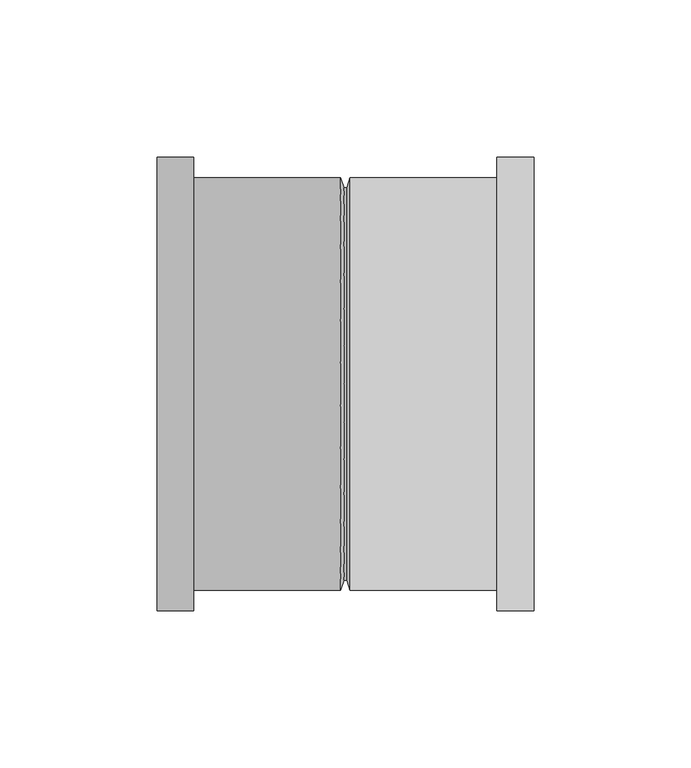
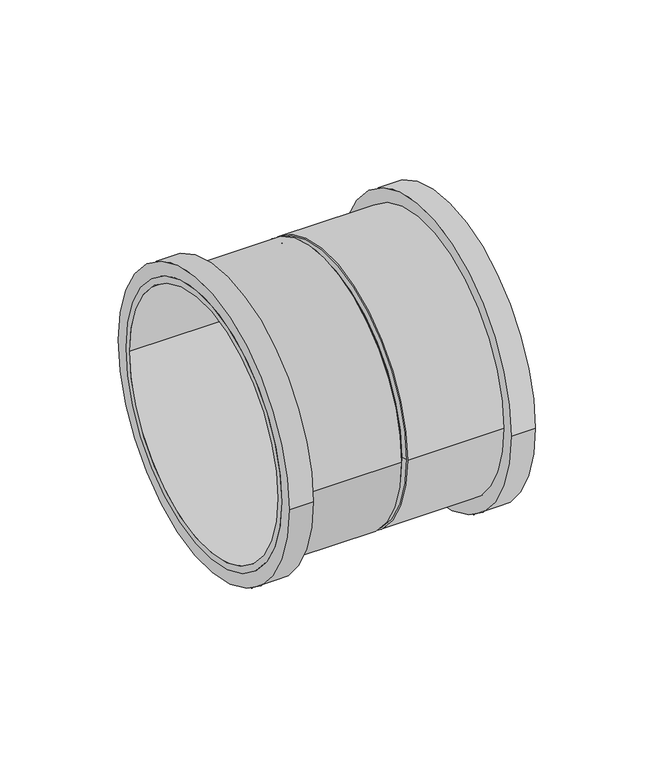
"""IFC4 building model written with IfcOpenShell, lengths in millimetres: pipe fitting geometry, Superdrain HTMM-Double socket : Superdrain HTMM-Double socket."""

import ifcopenshell
import ifcopenshell.guid

model = None  # the IFC model being written
_history = None  # IfcOwnerHistory: only IFC2X3 demands one
_inside = {}  # id of a spatial element -> (the spatial element, [elements in it])
_under = {}  # id of a project, library or spatial element -> (it, [spatial elements below it])
_declared = {}  # id of a project -> (the project, [libraries it declares])
_typed = {}  # id of a type object -> (the type object, [elements of that type])
_made_of = {}  # id of a material, layer set ... -> (it, [elements and type objects made of it])


def new_model(schema):
    """Start an empty IFC model of exactly this schema.

    Asked for "IFC4X3", IfcOpenShell would pick the latest addendum, in which some entities
    have other attributes; the version numbers below select the first issue.
    IFC2X3 requires an IfcOwnerHistory on every rooted entity: one is made here for all.
    """
    global model, _history
    if schema == "IFC4X3":
        model = ifcopenshell.file(schema_version=(4, 3, 0, 0))
    else:
        model = ifcopenshell.file(schema=schema)
    _inside.clear()
    _under.clear()
    _declared.clear()
    _typed.clear()
    _made_of.clear()
    _history = None
    if model.schema == "IFC2X3":
        org = make("IfcOrganization", Name="unknown")
        user = make(
            "IfcPersonAndOrganization",
            ThePerson=make("IfcPerson", FamilyName="unknown"),
            TheOrganization=org,
        )
        app = make(
            "IfcApplication",
            ApplicationDeveloper=org,
            Version="unknown",
            ApplicationFullName="unknown",
            ApplicationIdentifier="unknown",
        )
        _history = make(
            "IfcOwnerHistory",
            OwningUser=user,
            OwningApplication=app,
            ChangeAction="ADDED",
            CreationDate=0,
        )
    return model


def make(cls, **values):
    """One entity of the class cls with the attributes given. An attribute that is None is left unset."""
    return model.create_entity(
        cls, **{name: value for name, value in values.items() if value is not None}
    )


def rooted(cls, **values):
    """An entity with a GlobalId (a new one), such as an element, a storey or a relation."""
    return make(cls, GlobalId=ifcopenshell.guid.new(), OwnerHistory=_history, **values)


def si_unit(unit_type, name, prefix=None):
    """IfcSIUnit, for example si_unit("LENGTHUNIT", "METRE", prefix="MILLI")."""
    return make("IfcSIUnit", UnitType=unit_type, Prefix=prefix, Name=name)


def assignment(units):
    """IfcUnitAssignment: the units of a project."""
    return None if units is None else make("IfcUnitAssignment", Units=units)


def point(xyz):
    """IfcCartesianPoint."""
    return None if xyz is None else make("IfcCartesianPoint", Coordinates=xyz)


def direction(xyz):
    """IfcDirection."""
    return None if xyz is None else make("IfcDirection", DirectionRatios=xyz)


def frame(location, z_axis=None, x_axis=None):
    """IfcAxis2Placement3D, a coordinate frame: its origin and axes. An axis left out is left unset."""
    return make(
        "IfcAxis2Placement3D",
        Location=point(location),
        Axis=direction(z_axis),
        RefDirection=direction(x_axis),
    )


def frame_2d(location, x_axis=None):
    """IfcAxis2Placement2D, a coordinate frame in the plane: its origin and x axis."""
    return make(
        "IfcAxis2Placement2D", Location=point(location), RefDirection=direction(x_axis)
    )


def origin():
    """The frame at (0, 0, 0) with its axes left unset."""
    return frame((0.0, 0.0, 0.0))


def origin_2d():
    """The frame at (0, 0) in the plane with its x axis left unset."""
    return frame_2d((0.0, 0.0))


def place(relative_to, where):
    """IfcLocalPlacement: puts the frame where relative to a parent placement (None: the world)."""
    return make(
        "IfcLocalPlacement", PlacementRelTo=relative_to, RelativePlacement=where
    )


def context(
    kind, dimensions, precision=None, world=None, true_north=None, identifier=None
):
    """IfcGeometricRepresentationContext, for example the 3D "Model" context."""
    return make(
        "IfcGeometricRepresentationContext",
        ContextIdentifier=identifier,
        ContextType=kind,
        CoordinateSpaceDimension=dimensions,
        Precision=precision,
        WorldCoordinateSystem=world,
        TrueNorth=true_north,
    )


def project(units=None, contexts=None):
    """IfcProject with its units and contexts."""
    return rooted(
        "IfcProject",
        Name="project",
        RepresentationContexts=contexts,
        UnitsInContext=assignment(units),
    )


def spatial(cls, under=None, at=None, **own):
    """A site, building, storey or space (cls), placed at a placement, below another one or the project."""
    s = rooted(cls, ObjectPlacement=at, **own)
    if under is not None:
        _under.setdefault(under.id(), (under, []))[1].append(s)
    return s


def polyline(points):
    """IfcPolyline through the points."""
    return make("IfcPolyline", Points=[point(p) for p in points])


def circle_curve(where, radius):
    """IfcCircle in the frame where."""
    return make("IfcCircle", Position=where, Radius=radius)


def trimmed(basis, trim1, trim2, sense, master):
    """IfcTrimmedCurve: the piece of a basis curve between two trims."""
    return make(
        "IfcTrimmedCurve",
        BasisCurve=basis,
        Trim1=trim1,
        Trim2=trim2,
        SenseAgreement=sense,
        MasterRepresentation=master,
    )


def segment(curve, same_sense, transition):
    """IfcCompositeCurveSegment."""
    return make(
        "IfcCompositeCurveSegment",
        Transition=transition,
        SameSense=same_sense,
        ParentCurve=curve,
    )


def composite_curve(segments, self_intersect=None):
    """IfcCompositeCurve: segments joined end to end."""
    return make("IfcCompositeCurve", Segments=segments, SelfIntersect=self_intersect)


def outline(outer, holes=None, kind="AREA"):
    """IfcArbitraryClosedProfileDef: a profile drawn as a closed curve; with holes, ...WithVoids."""
    if holes is None:
        return make("IfcArbitraryClosedProfileDef", ProfileType=kind, OuterCurve=outer)
    return make(
        "IfcArbitraryProfileDefWithVoids",
        ProfileType=kind,
        OuterCurve=outer,
        InnerCurves=holes,
    )


def extrude(swept, where, along, depth):
    """IfcExtrudedAreaSolid: the profile swept, set in the frame where, extruded along a direction by depth."""
    return make(
        "IfcExtrudedAreaSolid",
        SweptArea=swept,
        Position=where,
        ExtrudedDirection=direction(along),
        Depth=depth,
    )


def shape(context_of_items, identifier, shape_type, items):
    """IfcShapeRepresentation: the items that make up one representation, for example the "Body"."""
    return make(
        "IfcShapeRepresentation",
        ContextOfItems=context_of_items,
        RepresentationIdentifier=identifier,
        RepresentationType=shape_type,
        Items=items,
    )


def source(mapping_origin, context_of_items, identifier, shape_type, items):
    """IfcRepresentationMap: a shape defined once, which mapped items show again and again."""
    return make(
        "IfcRepresentationMap",
        MappingOrigin=mapping_origin,
        MappedRepresentation=shape(context_of_items, identifier, shape_type, items),
    )


def transform(
    local_origin,
    x_axis=None,
    y_axis=None,
    z_axis=None,
    scale=None,
    scale2=None,
    scale3=None,
    uniform=True,
):
    """IfcCartesianTransformationOperator3D, or its non-uniform kind. x_axis, y_axis, z_axis: its Axis1, 2, 3."""
    if uniform:
        return make(
            "IfcCartesianTransformationOperator3D",
            Axis1=direction(x_axis),
            Axis2=direction(y_axis),
            LocalOrigin=point(local_origin),
            Scale=scale,
            Axis3=direction(z_axis),
        )
    return make(
        "IfcCartesianTransformationOperator3DnonUniform",
        Axis1=direction(x_axis),
        Axis2=direction(y_axis),
        LocalOrigin=point(local_origin),
        Scale=scale,
        Axis3=direction(z_axis),
        Scale2=scale2,
        Scale3=scale3,
    )


def mapped(mapping_source, mapping_target):
    """IfcMappedItem: shows the shape of a source again, moved by a transform."""
    return make(
        "IfcMappedItem", MappingSource=mapping_source, MappingTarget=mapping_target
    )


def made_of(thing, what):
    """Note that an element or type object is made of a material, layer set ...; save() writes the relation."""
    if what is not None:
        _made_of.setdefault(what.id(), (what, []))[1].append(thing)
    return thing


def element(
    cls,
    number,
    at=None,
    inside=None,
    cuts=None,
    type_object=None,
    material=None,
    context=None,
    identifier="Body",
    shape_type=None,
    held_by="IfcProductDefinitionShape",
    body=None,
    shapes=None,
    **own,
):
    """One element of the class cls, such as IfcWall. Its Tag is "e" and its number.

    at: its placement. inside: the storey or other place that contains it. cuts: it is an
    opening in that element (IfcRelVoidsElement). A single representation is given by context,
    identifier, shape_type and body (its items); several are given by shapes. held_by: the class
    of the entity that holds the representations. save() writes the other relations.
    """
    e = rooted(cls, Tag="e%d" % number, ObjectPlacement=at, **own)
    if body is not None:
        shapes = [shape(context, identifier, shape_type, body)]
    if shapes is not None:
        e.Representation = make(held_by, Representations=shapes)
    if inside is not None:
        _inside.setdefault(inside.id(), (inside, []))[1].append(e)
    if cuts is not None:
        rooted(
            "IfcRelVoidsElement", RelatingBuildingElement=cuts, RelatedOpeningElement=e
        )
    if type_object is not None:
        _typed.setdefault(type_object.id(), (type_object, []))[1].append(e)
    return made_of(e, material)


def aggregate(whole, parts):
    """IfcRelAggregates: a whole, such as a stair, and the parts it consists of."""
    return rooted("IfcRelAggregates", RelatingObject=whole, RelatedObjects=parts)


def save(model, path):
    """Write the relations noted so far, then the file.

    IfcRelAggregates (storeys below a building ...), IfcRelContainedInSpatialStructure (elements
    in a storey), IfcRelDefinesByType, IfcRelAssociatesMaterial and IfcRelDeclares: one each for
    every whole, place, type object, material and project.
    """
    for whole, parts in _under.values():
        aggregate(whole, parts)
    for where, things in _inside.values():
        rooted(
            "IfcRelContainedInSpatialStructure",
            RelatedElements=things,
            RelatingStructure=where,
        )
    for kind, things in _typed.values():
        rooted("IfcRelDefinesByType", RelatedObjects=things, RelatingType=kind)
    for what, things in _made_of.values():
        rooted("IfcRelAssociatesMaterial", RelatedObjects=things, RelatingMaterial=what)
    for by, libraries in _declared.values():
        rooted("IfcRelDeclares", RelatingContext=by, RelatedDefinitions=libraries)
    model.write(path)


def plane_surface(at):
    """IfcPlane: the flat surface through the origin of the frame at, square to its z axis."""
    return make("IfcPlane", Position=at)


def revolved_surface(curve, axis_point, axis_direction):
    """IfcSurfaceOfRevolution: the curve turned about the line through axis_point along axis_direction."""
    return make(
        "IfcSurfaceOfRevolution",
        SweptCurve=make("IfcArbitraryOpenProfileDef", ProfileType="CURVE", Curve=curve),
        AxisPosition=make("IfcAxis1Placement", Location=point(axis_point), Axis=direction(axis_direction)),
    )


def advanced_brep(points, edges, surfaces, faces):
    """IfcAdvancedBrep: a solid bounded by faces that lie on surfaces and meet in shared edges.

    An edge is (start, end): straight between two places in points (the first is 0);
    or (start, end, curve); or (start, end, curve, False) where it runs against its curve.
    A face is (place in surfaces, loops), or (place, loops, False) where it looks against
    its surface's normal. A loop lists edges by number (the first is 1), with a minus sign
    where the edge is run from its end to its start. The first loop is the outer one.
    """
    corners = [point(p) for p in points]
    vertices = [make("IfcVertexPoint", VertexGeometry=c) for c in corners]
    made = []
    for start, end, *more in edges:
        made.append(
            make(
                "IfcEdgeCurve",
                EdgeStart=vertices[start],
                EdgeEnd=vertices[end],
                EdgeGeometry=more[0] if more else make("IfcPolyline", Points=[corners[start], corners[end]]),
                SameSense=more[1] if len(more) > 1 else True,
            )
        )
    hull = []
    for where, loops, *sense in faces:
        bounds = []
        for j, loop in enumerate(loops):
            ring = [make("IfcOrientedEdge", EdgeElement=made[abs(k) - 1], Orientation=k > 0) for k in loop]
            bounds.append(
                make(
                    "IfcFaceOuterBound" if j == 0 else "IfcFaceBound",
                    Bound=make("IfcEdgeLoop", EdgeList=ring),
                    Orientation=True,
                )
            )
        hull.append(make("IfcAdvancedFace", Bounds=bounds, FaceSurface=surfaces[where], SameSense=sense[0] if sense else True))
    return make("IfcAdvancedBrep", Outer=make("IfcClosedShell", CfsFaces=hull))


def pipe_fitting_0d33240f(model_context):
    return source(origin(), model_context, "Body", "SolidModel", [
        extrude(outline(composite_curve([segment(trimmed(circle_curve(origin_2d(), 65.625), [point((65.625, 0.0))], [point((-65.625, 0.0))], False, "CARTESIAN"), True, "CONTINUOUS"), segment(trimmed(circle_curve(origin_2d(), 65.625), [point((-65.625, 0.0))], [point((65.625, 0.0))], False, "CARTESIAN"), True, "CONTINUOUS")], self_intersect=False), holes=[composite_curve([segment(trimmed(circle_curve(origin_2d(), 62.5), [point((62.5, 0.0))], [point((-62.5, 0.0))], True, "CARTESIAN"), True, "CONTINUOUS"), segment(trimmed(circle_curve(origin_2d(), 62.5), [point((-62.5, 0.0))], [point((62.5, 0.0))], True, "CARTESIAN"), True, "CONTINUOUS")], self_intersect=False)]), frame((1.5, 0.0, 0.0), z_axis=(1.0, 0.0, 0.0), x_axis=(0.0, 1.0, 0.0)), (0.0, 0.0, 1.0), 58.5),
        extrude(outline(composite_curve([segment(trimmed(circle_curve(origin_2d(), 72.1875), [point((72.1875, 0.0))], [point((-72.1875, 0.0))], False, "CARTESIAN"), True, "CONTINUOUS"), segment(trimmed(circle_curve(origin_2d(), 72.1875), [point((-72.1875, 0.0))], [point((72.1875, 0.0))], False, "CARTESIAN"), True, "CONTINUOUS")], self_intersect=False), holes=[composite_curve([segment(trimmed(circle_curve(origin_2d(), 62.5), [point((62.5, 0.0))], [point((-62.5, 0.0))], True, "CARTESIAN"), True, "CONTINUOUS"), segment(trimmed(circle_curve(origin_2d(), 62.5), [point((-62.5, 0.0))], [point((62.5, 0.0))], True, "CARTESIAN"), True, "CONTINUOUS")], self_intersect=False)]), frame((48.3, 0.0, 0.0), z_axis=(1.0, 0.0, 0.0), x_axis=(0.0, 1.0, 0.0)), (0.0, 0.0, 1.0), 11.7),
        advanced_brep(
        [(0.5, 62.5, 0.0), (0.5, -62.5, 0.0), (1.5, 65.625, 0.0), (1.5, -65.625, 0.0)],
        [
            (0, 1, circle_curve(frame((0.5, 0.0, 0.0), z_axis=(-1.0, 0.0, 0.0), x_axis=(0.0, 1.0, 0.0)), 62.5)),
            (1, 0, circle_curve(frame((0.5, 0.0, 0.0), z_axis=(-1.0, 0.0, 0.0), x_axis=(0.0, -1.0, 0.0)), 62.5)),
            (2, 3, circle_curve(frame((1.5, 0.0, 0.0), z_axis=(1.0, 0.0, 0.0), x_axis=(0.0, -1.0, 0.0)), 65.625)),
            (3, 2, circle_curve(frame((1.5, 0.0, 0.0), z_axis=(1.0, 0.0, 0.0), x_axis=(0.0, 1.0, 0.0)), 65.625)),
            (3, 1),
            (0, 2),
        ],
        [
            plane_surface(frame((0.5, 0.0, 0.0), z_axis=(-1.0, 0.0, 0.0), x_axis=(0.0, 0.0, -1.0))),
            plane_surface(frame((1.5, 0.0, 0.0), z_axis=(1.0, 0.0, 0.0), x_axis=(0.0, 0.0, -1.0))),
            revolved_surface(polyline([(0.5, 62.5, 0.0), (1.5, 65.625, 0.0)]), (-19.5, 0.0, 0.0), (1.0, 0.0, 0.0)),
            revolved_surface(polyline([(0.5, -62.5, 0.0), (1.5, -65.625, 0.0)]), (-19.5, 0.0, 0.0), (1.0, 0.0, 0.0)),
        ],
        [
            (0, [[1, 2]]),
            (1, [[3, 4]]),
            (2, [[-4, 5, -1, 6]]),
            (3, [[-3, -6, -2, -5]]),
        ],
    ),
        extrude(outline(composite_curve([segment(trimmed(circle_curve(origin_2d(), 65.625), [point((-65.625, 0.0))], [point((65.625, 0.0))], False, "CARTESIAN"), True, "CONTINUOUS"), segment(trimmed(circle_curve(origin_2d(), 65.625), [point((65.625, 0.0))], [point((-65.625, 0.0))], False, "CARTESIAN"), True, "CONTINUOUS")], self_intersect=False), holes=[composite_curve([segment(trimmed(circle_curve(origin_2d(), 62.5), [point((-62.5, 0.0))], [point((62.5, 0.0))], True, "CARTESIAN"), True, "CONTINUOUS"), segment(trimmed(circle_curve(origin_2d(), 62.5), [point((62.5, 0.0))], [point((-62.5, 0.0))], True, "CARTESIAN"), True, "CONTINUOUS")], self_intersect=False)]), frame((-60.0, 0.0, 0.0), z_axis=(1.0, 0.0, 0.0), x_axis=(0.0, 1.0, 0.0)), (0.0, 0.0, 1.0), 58.5),
        extrude(outline(composite_curve([segment(trimmed(circle_curve(origin_2d(), 72.1875), [point((-72.1875, 0.0))], [point((72.1875, 0.0))], False, "CARTESIAN"), True, "CONTINUOUS"), segment(trimmed(circle_curve(origin_2d(), 72.1875), [point((72.1875, 0.0))], [point((-72.1875, 0.0))], False, "CARTESIAN"), True, "CONTINUOUS")], self_intersect=False), holes=[composite_curve([segment(trimmed(circle_curve(origin_2d(), 62.5), [point((-62.5, 0.0))], [point((62.5, 0.0))], True, "CARTESIAN"), True, "CONTINUOUS"), segment(trimmed(circle_curve(origin_2d(), 62.5), [point((62.5, 0.0))], [point((-62.5, 0.0))], True, "CARTESIAN"), True, "CONTINUOUS")], self_intersect=False)]), frame((-60.0, 0.0, 0.0), z_axis=(1.0, 0.0, 0.0), x_axis=(0.0, 1.0, 0.0)), (0.0, 0.0, 1.0), 11.7),
        advanced_brep(
        [(-0.5, -62.5, 0.0), (-0.5, 62.5, 0.0), (-1.5, -65.625, 0.0), (-1.5, 65.625, 0.0)],
        [
            (0, 1, circle_curve(frame((-0.5, 0.0, 0.0), z_axis=(1.0, 0.0, 0.0), x_axis=(0.0, -1.0, 0.0)), 62.5)),
            (1, 0, circle_curve(frame((-0.5, 0.0, 0.0), z_axis=(1.0, 0.0, 0.0), x_axis=(0.0, 1.0, 0.0)), 62.5)),
            (2, 3, circle_curve(frame((-1.5, 0.0, 0.0), z_axis=(-1.0, 0.0, 0.0), x_axis=(0.0, 1.0, 0.0)), 65.625)),
            (3, 2, circle_curve(frame((-1.5, 0.0, 0.0), z_axis=(-1.0, 0.0, 0.0), x_axis=(0.0, -1.0, 0.0)), 65.625)),
            (3, 1),
            (0, 2),
        ],
        [
            plane_surface(frame((-0.5, 0.0, 0.0), z_axis=(1.0, 0.0, 0.0), x_axis=(0.0, 0.0, -1.0))),
            plane_surface(frame((-1.5, 0.0, 0.0), z_axis=(-1.0, 0.0, 0.0), x_axis=(0.0, 0.0, -1.0))),
            revolved_surface(polyline([(-0.5, -62.5, 0.0), (-1.5, -65.625, 0.0)]), (19.5, 0.0, 0.0), (-1.0, 0.0, 0.0)),
            revolved_surface(polyline([(-0.5, 62.5, 0.0), (-1.5, 65.625, 0.0)]), (19.5, 0.0, 0.0), (-1.0, 0.0, 0.0)),
        ],
        [
            (0, [[1, 2]]),
            (1, [[3, 4]]),
            (2, [[-4, 5, -1, 6]]),
            (3, [[-3, -6, -2, -5]]),
        ],
    ),
        extrude(outline(composite_curve([segment(trimmed(circle_curve(origin_2d(), 62.5), [point((-62.5, 0.0))], [point((62.5, 0.0))], False, "CARTESIAN"), True, "CONTINUOUS"), segment(trimmed(circle_curve(origin_2d(), 62.5), [point((62.5, 0.0))], [point((-62.5, 0.0))], False, "CARTESIAN"), True, "CONTINUOUS")], self_intersect=False)), frame((-1.5, 0.0, 0.0), z_axis=(1.0, 0.0, 0.0), x_axis=(0.0, 1.0, 0.0)), (0.0, 0.0, 1.0), 3.0),
    ])


if __name__ == "__main__":
    model = new_model("IFC4")
    model_context = context("Model", 3, world=origin())
    ifc_project = project(units=[si_unit("LENGTHUNIT", "METRE", prefix="MILLI")], contexts=[model_context])
    site = spatial("IfcSite", under=ifc_project)
    building = spatial("IfcBuilding", under=site)
    placement = place(None, origin())
    pipe_fitting_shape = pipe_fitting_0d33240f(model_context)
    element("IfcPipeFitting", 1, ObjectType="Superdrain HTMM-Double socket : Superdrain HTMM-Double socket", at=placement, inside=building, context=model_context, shape_type="MappedRepresentation", body=[
        mapped(pipe_fitting_shape, transform((0.0, 0.0, 0.0), x_axis=(1.0, 0.0, 0.0), y_axis=(0.0, 1.0, 0.0), z_axis=(0.0, 0.0, 1.0))),
    ])
    save(model, "model.ifc")
